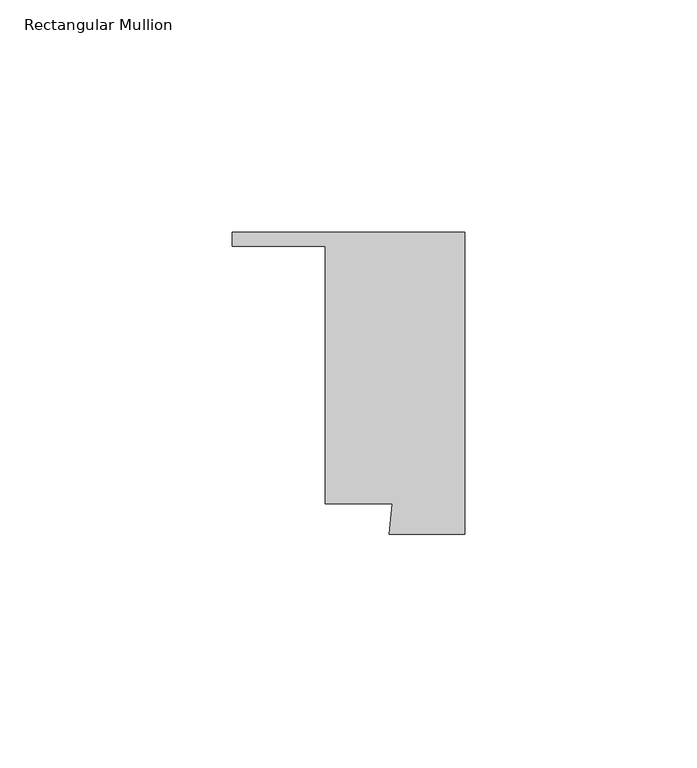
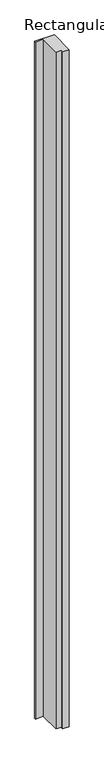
"""IFC4 building model written with IfcOpenShell, lengths in millimetres: member geometry, Rectangular Mullion : MCGRORY - Forster Fuego Light - 60 Min Rated - Door Mullion Top."""

import ifcopenshell
import ifcopenshell.guid

model = None  # the IFC model being written
_history = None  # IfcOwnerHistory: only IFC2X3 demands one
_inside = {}  # id of a spatial element -> (the spatial element, [elements in it])
_under = {}  # id of a project, library or spatial element -> (it, [spatial elements below it])
_declared = {}  # id of a project -> (the project, [libraries it declares])
_typed = {}  # id of a type object -> (the type object, [elements of that type])
_made_of = {}  # id of a material, layer set ... -> (it, [elements and type objects made of it])


def new_model(schema):
    """Start an empty IFC model of exactly this schema.

    Asked for "IFC4X3", IfcOpenShell would pick the latest addendum, in which some entities
    have other attributes; the version numbers below select the first issue.
    IFC2X3 requires an IfcOwnerHistory on every rooted entity: one is made here for all.
    """
    global model, _history
    if schema == "IFC4X3":
        model = ifcopenshell.file(schema_version=(4, 3, 0, 0))
    else:
        model = ifcopenshell.file(schema=schema)
    _inside.clear()
    _under.clear()
    _declared.clear()
    _typed.clear()
    _made_of.clear()
    _history = None
    if model.schema == "IFC2X3":
        org = make("IfcOrganization", Name="unknown")
        user = make(
            "IfcPersonAndOrganization",
            ThePerson=make("IfcPerson", FamilyName="unknown"),
            TheOrganization=org,
        )
        app = make(
            "IfcApplication",
            ApplicationDeveloper=org,
            Version="unknown",
            ApplicationFullName="unknown",
            ApplicationIdentifier="unknown",
        )
        _history = make(
            "IfcOwnerHistory",
            OwningUser=user,
            OwningApplication=app,
            ChangeAction="ADDED",
            CreationDate=0,
        )
    return model


def make(cls, **values):
    """One entity of the class cls with the attributes given. An attribute that is None is left unset."""
    return model.create_entity(
        cls, **{name: value for name, value in values.items() if value is not None}
    )


def rooted(cls, **values):
    """An entity with a GlobalId (a new one), such as an element, a storey or a relation."""
    return make(cls, GlobalId=ifcopenshell.guid.new(), OwnerHistory=_history, **values)


def si_unit(unit_type, name, prefix=None):
    """IfcSIUnit, for example si_unit("LENGTHUNIT", "METRE", prefix="MILLI")."""
    return make("IfcSIUnit", UnitType=unit_type, Prefix=prefix, Name=name)


def assignment(units):
    """IfcUnitAssignment: the units of a project."""
    return None if units is None else make("IfcUnitAssignment", Units=units)


def point(xyz):
    """IfcCartesianPoint."""
    return None if xyz is None else make("IfcCartesianPoint", Coordinates=xyz)


def direction(xyz):
    """IfcDirection."""
    return None if xyz is None else make("IfcDirection", DirectionRatios=xyz)


def frame(location, z_axis=None, x_axis=None):
    """IfcAxis2Placement3D, a coordinate frame: its origin and axes. An axis left out is left unset."""
    return make(
        "IfcAxis2Placement3D",
        Location=point(location),
        Axis=direction(z_axis),
        RefDirection=direction(x_axis),
    )


def origin():
    """The frame at (0, 0, 0) with its axes left unset."""
    return frame((0.0, 0.0, 0.0))


def place(relative_to, where):
    """IfcLocalPlacement: puts the frame where relative to a parent placement (None: the world)."""
    return make(
        "IfcLocalPlacement", PlacementRelTo=relative_to, RelativePlacement=where
    )


def context(
    kind, dimensions, precision=None, world=None, true_north=None, identifier=None
):
    """IfcGeometricRepresentationContext, for example the 3D "Model" context."""
    return make(
        "IfcGeometricRepresentationContext",
        ContextIdentifier=identifier,
        ContextType=kind,
        CoordinateSpaceDimension=dimensions,
        Precision=precision,
        WorldCoordinateSystem=world,
        TrueNorth=true_north,
    )


def project(units=None, contexts=None):
    """IfcProject with its units and contexts."""
    return rooted(
        "IfcProject",
        Name="project",
        RepresentationContexts=contexts,
        UnitsInContext=assignment(units),
    )


def spatial(cls, under=None, at=None, **own):
    """A site, building, storey or space (cls), placed at a placement, below another one or the project."""
    s = rooted(cls, ObjectPlacement=at, **own)
    if under is not None:
        _under.setdefault(under.id(), (under, []))[1].append(s)
    return s


def polyline(points):
    """IfcPolyline through the points."""
    return make("IfcPolyline", Points=[point(p) for p in points])


def outline(outer, holes=None, kind="AREA"):
    """IfcArbitraryClosedProfileDef: a profile drawn as a closed curve; with holes, ...WithVoids."""
    if holes is None:
        return make("IfcArbitraryClosedProfileDef", ProfileType=kind, OuterCurve=outer)
    return make(
        "IfcArbitraryProfileDefWithVoids",
        ProfileType=kind,
        OuterCurve=outer,
        InnerCurves=holes,
    )


def extrude(swept, where, along, depth):
    """IfcExtrudedAreaSolid: the profile swept, set in the frame where, extruded along a direction by depth."""
    return make(
        "IfcExtrudedAreaSolid",
        SweptArea=swept,
        Position=where,
        ExtrudedDirection=direction(along),
        Depth=depth,
    )


def shape(context_of_items, identifier, shape_type, items):
    """IfcShapeRepresentation: the items that make up one representation, for example the "Body"."""
    return make(
        "IfcShapeRepresentation",
        ContextOfItems=context_of_items,
        RepresentationIdentifier=identifier,
        RepresentationType=shape_type,
        Items=items,
    )


def source(mapping_origin, context_of_items, identifier, shape_type, items):
    """IfcRepresentationMap: a shape defined once, which mapped items show again and again."""
    return make(
        "IfcRepresentationMap",
        MappingOrigin=mapping_origin,
        MappedRepresentation=shape(context_of_items, identifier, shape_type, items),
    )


def transform(
    local_origin,
    x_axis=None,
    y_axis=None,
    z_axis=None,
    scale=None,
    scale2=None,
    scale3=None,
    uniform=True,
):
    """IfcCartesianTransformationOperator3D, or its non-uniform kind. x_axis, y_axis, z_axis: its Axis1, 2, 3."""
    if uniform:
        return make(
            "IfcCartesianTransformationOperator3D",
            Axis1=direction(x_axis),
            Axis2=direction(y_axis),
            LocalOrigin=point(local_origin),
            Scale=scale,
            Axis3=direction(z_axis),
        )
    return make(
        "IfcCartesianTransformationOperator3DnonUniform",
        Axis1=direction(x_axis),
        Axis2=direction(y_axis),
        LocalOrigin=point(local_origin),
        Scale=scale,
        Axis3=direction(z_axis),
        Scale2=scale2,
        Scale3=scale3,
    )


def mapped(mapping_source, mapping_target):
    """IfcMappedItem: shows the shape of a source again, moved by a transform."""
    return make(
        "IfcMappedItem", MappingSource=mapping_source, MappingTarget=mapping_target
    )


def made_of(thing, what):
    """Note that an element or type object is made of a material, layer set ...; save() writes the relation."""
    if what is not None:
        _made_of.setdefault(what.id(), (what, []))[1].append(thing)
    return thing


def element(
    cls,
    number,
    at=None,
    inside=None,
    cuts=None,
    type_object=None,
    material=None,
    context=None,
    identifier="Body",
    shape_type=None,
    held_by="IfcProductDefinitionShape",
    body=None,
    shapes=None,
    **own,
):
    """One element of the class cls, such as IfcWall. Its Tag is "e" and its number.

    at: its placement. inside: the storey or other place that contains it. cuts: it is an
    opening in that element (IfcRelVoidsElement). A single representation is given by context,
    identifier, shape_type and body (its items); several are given by shapes. held_by: the class
    of the entity that holds the representations. save() writes the other relations.
    """
    e = rooted(cls, Tag="e%d" % number, ObjectPlacement=at, **own)
    if body is not None:
        shapes = [shape(context, identifier, shape_type, body)]
    if shapes is not None:
        e.Representation = make(held_by, Representations=shapes)
    if inside is not None:
        _inside.setdefault(inside.id(), (inside, []))[1].append(e)
    if cuts is not None:
        rooted(
            "IfcRelVoidsElement", RelatingBuildingElement=cuts, RelatedOpeningElement=e
        )
    if type_object is not None:
        _typed.setdefault(type_object.id(), (type_object, []))[1].append(e)
    return made_of(e, material)


def aggregate(whole, parts):
    """IfcRelAggregates: a whole, such as a stair, and the parts it consists of."""
    return rooted("IfcRelAggregates", RelatingObject=whole, RelatedObjects=parts)


def save(model, path):
    """Write the relations noted so far, then the file.

    IfcRelAggregates (storeys below a building ...), IfcRelContainedInSpatialStructure (elements
    in a storey), IfcRelDefinesByType, IfcRelAssociatesMaterial and IfcRelDeclares: one each for
    every whole, place, type object, material and project.
    """
    for whole, parts in _under.values():
        aggregate(whole, parts)
    for where, things in _inside.values():
        rooted(
            "IfcRelContainedInSpatialStructure",
            RelatedElements=things,
            RelatingStructure=where,
        )
    for kind, things in _typed.values():
        rooted("IfcRelDefinesByType", RelatedObjects=things, RelatingType=kind)
    for what, things in _made_of.values():
        rooted("IfcRelAssociatesMaterial", RelatedObjects=things, RelatingMaterial=what)
    for by, libraries in _declared.values():
        rooted("IfcRelDeclares", RelatingContext=by, RelatedDefinitions=libraries)
    model.write(path)


def rectangular_mullion_9e581753(model_context):
    return source(origin(), model_context, "Body", "SweptSolid", [
        extrude(outline(polyline([(-49.9781277, 32.485783), (0.0, 32.485783), (0.0, -32.485783), (-16.175538, -32.485783), (-15.5983654, -25.8886702), (-29.9868766, -25.8886702), (-29.9868766, 29.4870954), (-49.9781277, 29.4870954), (-49.9781277, 32.485783)])), frame((0.0, 0.0, -1817.0174978), z_axis=(0.0, 0.0, 1.0), x_axis=(1.0, 0.0, 0.0)), (0.0, 0.0, 1.0), 1817.0174978),
    ])


if __name__ == "__main__":
    model = new_model("IFC4")
    model_context = context("Model", 3, world=origin())
    ifc_project = project(units=[si_unit("LENGTHUNIT", "METRE", prefix="MILLI")], contexts=[model_context])
    site = spatial("IfcSite", under=ifc_project)
    building = spatial("IfcBuilding", under=site)
    placement = place(None, origin())
    rectangular_mullion_shape = rectangular_mullion_9e581753(model_context)
    element("IfcMember", 1, ObjectType="Rectangular Mullion : MCGRORY - Forster Fuego Light - 60 Min Rated - Door Mullion Top", at=placement, inside=building, context=model_context, shape_type="MappedRepresentation", body=[
        mapped(rectangular_mullion_shape, transform((0.0, 0.0, 0.0), x_axis=(1.0, 0.0, 0.0), y_axis=(0.0, 1.0, 0.0), z_axis=(0.0, 0.0, 1.0))),
    ])
    save(model, "model.ifc")
